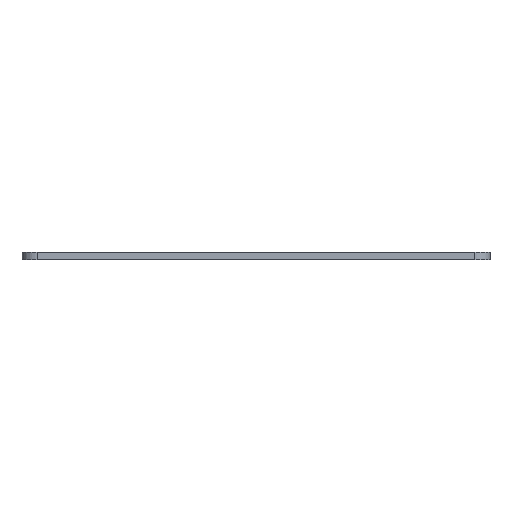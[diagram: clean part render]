
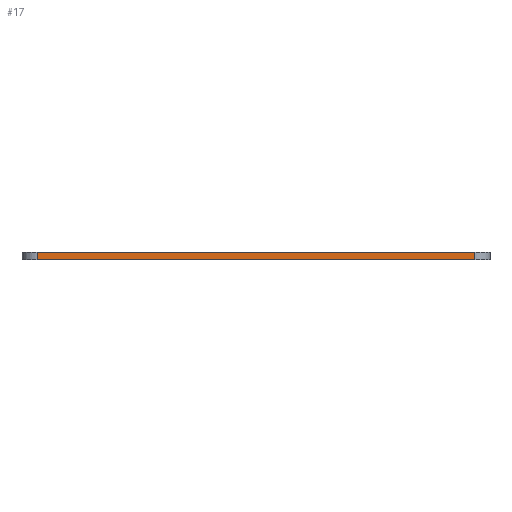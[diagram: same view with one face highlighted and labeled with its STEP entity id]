
A CAD part, left-side view. The second image highlights one B-rep face of the part: STEP entity #17.
In plain terms, the highlighted planar face has unit normal (-1, 0, 0).
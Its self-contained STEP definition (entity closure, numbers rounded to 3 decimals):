
#17 = ADVANCED_FACE('',(#18),#32,.F.);
#18 = FACE_BOUND('',#19,.F.);
#19 = EDGE_LOOP('',(#20,#55,#83,#111));
#20 = ORIENTED_EDGE('',*,*,#21,.F.);
#21 = EDGE_CURVE('',#22,#24,#26,.T.);
#22 = VERTEX_POINT('',#23);
#23 = CARTESIAN_POINT('',(18.,24.,13.));
#24 = VERTEX_POINT('',#25);
#25 = CARTESIAN_POINT('',(18.,196.,13.));
#26 = SURFACE_CURVE('',#27,(#31,#43),.PCURVE_S1.);
#27 = LINE('',#28,#29);
#28 = CARTESIAN_POINT('',(18.,18.,13.));
#29 = VECTOR('',#30,1.);
#30 = DIRECTION('',(0.,1.,0.));
#31 = PCURVE('',#32,#37);
#32 = PLANE('',#33);
#33 = AXIS2_PLACEMENT_3D('',#34,#35,#36);
#34 = CARTESIAN_POINT('',(18.,18.,10.));
#35 = DIRECTION('',(1.,0.,0.));
#36 = DIRECTION('',(0.,0.,1.));
#37 = DEFINITIONAL_REPRESENTATION('',(#38),#42);
#38 = LINE('',#39,#40);
#39 = CARTESIAN_POINT('',(3.,0.));
#40 = VECTOR('',#41,1.);
#41 = DIRECTION('',(0.,-1.));
#42 = ( GEOMETRIC_REPRESENTATION_CONTEXT(2) 
PARAMETRIC_REPRESENTATION_CONTEXT() REPRESENTATION_CONTEXT('2D SPACE',''
  ) );
#43 = PCURVE('',#44,#49);
#44 = PLANE('',#45);
#45 = AXIS2_PLACEMENT_3D('',#46,#47,#48);
#46 = CARTESIAN_POINT('',(18.,18.,13.));
#47 = DIRECTION('',(0.,0.,1.));
#48 = DIRECTION('',(1.,0.,0.));
#49 = DEFINITIONAL_REPRESENTATION('',(#50),#54);
#50 = LINE('',#51,#52);
#51 = CARTESIAN_POINT('',(0.,0.));
#52 = VECTOR('',#53,1.);
#53 = DIRECTION('',(0.,1.));
#54 = ( GEOMETRIC_REPRESENTATION_CONTEXT(2) 
PARAMETRIC_REPRESENTATION_CONTEXT() REPRESENTATION_CONTEXT('2D SPACE',''
  ) );
#55 = ORIENTED_EDGE('',*,*,#56,.F.);
#56 = EDGE_CURVE('',#57,#22,#59,.T.);
#57 = VERTEX_POINT('',#58);
#58 = CARTESIAN_POINT('',(18.,24.,10.));
#59 = SURFACE_CURVE('',#60,(#64,#71),.PCURVE_S1.);
#60 = LINE('',#61,#62);
#61 = CARTESIAN_POINT('',(18.,24.,10.));
#62 = VECTOR('',#63,1.);
#63 = DIRECTION('',(0.,0.,1.));
#64 = PCURVE('',#32,#65);
#65 = DEFINITIONAL_REPRESENTATION('',(#66),#70);
#66 = LINE('',#67,#68);
#67 = CARTESIAN_POINT('',(0.,-6.));
#68 = VECTOR('',#69,1.);
#69 = DIRECTION('',(1.,0.));
#70 = ( GEOMETRIC_REPRESENTATION_CONTEXT(2) 
PARAMETRIC_REPRESENTATION_CONTEXT() REPRESENTATION_CONTEXT('2D SPACE',''
  ) );
#71 = PCURVE('',#72,#77);
#72 = CYLINDRICAL_SURFACE('',#73,6.);
#73 = AXIS2_PLACEMENT_3D('',#74,#75,#76);
#74 = CARTESIAN_POINT('',(24.,24.,10.));
#75 = DIRECTION('',(0.,0.,1.));
#76 = DIRECTION('',(-1.,-0.,0.));
#77 = DEFINITIONAL_REPRESENTATION('',(#78),#82);
#78 = LINE('',#79,#80);
#79 = CARTESIAN_POINT('',(0.,0.));
#80 = VECTOR('',#81,1.);
#81 = DIRECTION('',(0.,1.));
#82 = ( GEOMETRIC_REPRESENTATION_CONTEXT(2) 
PARAMETRIC_REPRESENTATION_CONTEXT() REPRESENTATION_CONTEXT('2D SPACE',''
  ) );
#83 = ORIENTED_EDGE('',*,*,#84,.T.);
#84 = EDGE_CURVE('',#57,#85,#87,.T.);
#85 = VERTEX_POINT('',#86);
#86 = CARTESIAN_POINT('',(18.,196.,10.));
#87 = SURFACE_CURVE('',#88,(#92,#99),.PCURVE_S1.);
#88 = LINE('',#89,#90);
#89 = CARTESIAN_POINT('',(18.,18.,10.));
#90 = VECTOR('',#91,1.);
#91 = DIRECTION('',(0.,1.,0.));
#92 = PCURVE('',#32,#93);
#93 = DEFINITIONAL_REPRESENTATION('',(#94),#98);
#94 = LINE('',#95,#96);
#95 = CARTESIAN_POINT('',(0.,0.));
#96 = VECTOR('',#97,1.);
#97 = DIRECTION('',(0.,-1.));
#98 = ( GEOMETRIC_REPRESENTATION_CONTEXT(2) 
PARAMETRIC_REPRESENTATION_CONTEXT() REPRESENTATION_CONTEXT('2D SPACE',''
  ) );
#99 = PCURVE('',#100,#105);
#100 = PLANE('',#101);
#101 = AXIS2_PLACEMENT_3D('',#102,#103,#104);
#102 = CARTESIAN_POINT('',(18.,18.,10.));
#103 = DIRECTION('',(0.,0.,1.));
#104 = DIRECTION('',(1.,0.,0.));
#105 = DEFINITIONAL_REPRESENTATION('',(#106),#110);
#106 = LINE('',#107,#108);
#107 = CARTESIAN_POINT('',(0.,0.));
#108 = VECTOR('',#109,1.);
#109 = DIRECTION('',(0.,1.));
#110 = ( GEOMETRIC_REPRESENTATION_CONTEXT(2) 
PARAMETRIC_REPRESENTATION_CONTEXT() REPRESENTATION_CONTEXT('2D SPACE',''
  ) );
#111 = ORIENTED_EDGE('',*,*,#112,.T.);
#112 = EDGE_CURVE('',#85,#24,#113,.T.);
#113 = SURFACE_CURVE('',#114,(#118,#125),.PCURVE_S1.);
#114 = LINE('',#115,#116);
#115 = CARTESIAN_POINT('',(18.,196.,10.));
#116 = VECTOR('',#117,1.);
#117 = DIRECTION('',(0.,0.,1.));
#118 = PCURVE('',#32,#119);
#119 = DEFINITIONAL_REPRESENTATION('',(#120),#124);
#120 = LINE('',#121,#122);
#121 = CARTESIAN_POINT('',(0.,-178.));
#122 = VECTOR('',#123,1.);
#123 = DIRECTION('',(1.,0.));
#124 = ( GEOMETRIC_REPRESENTATION_CONTEXT(2) 
PARAMETRIC_REPRESENTATION_CONTEXT() REPRESENTATION_CONTEXT('2D SPACE',''
  ) );
#125 = PCURVE('',#126,#131);
#126 = CYLINDRICAL_SURFACE('',#127,6.);
#127 = AXIS2_PLACEMENT_3D('',#128,#129,#130);
#128 = CARTESIAN_POINT('',(24.,196.,10.));
#129 = DIRECTION('',(0.,0.,1.));
#130 = DIRECTION('',(-1.,-0.,0.));
#131 = DEFINITIONAL_REPRESENTATION('',(#132),#136);
#132 = LINE('',#133,#134);
#133 = CARTESIAN_POINT('',(-0.,0.));
#134 = VECTOR('',#135,1.);
#135 = DIRECTION('',(-0.,1.));
#136 = ( GEOMETRIC_REPRESENTATION_CONTEXT(2) 
PARAMETRIC_REPRESENTATION_CONTEXT() REPRESENTATION_CONTEXT('2D SPACE',''
  ) );
